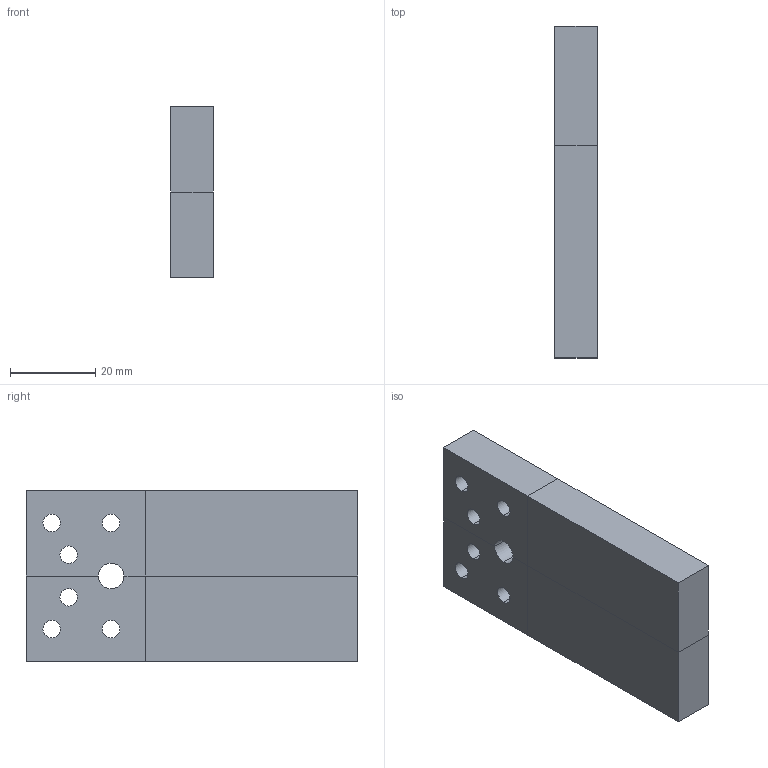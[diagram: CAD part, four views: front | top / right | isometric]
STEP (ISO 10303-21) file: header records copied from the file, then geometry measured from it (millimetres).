
FILE_DESCRIPTION(('Open CASCADE Model'),'2;1');
FILE_NAME('Open CASCADE Shape Model','2006-04-02T17:37:17',('Author'),( 'Open CASCADE'),'Open CASCADE STEP processor 5.2','Open CASCADE 5.2' ,'Unknown');
FILE_SCHEMA(('AUTOMOTIVE_DESIGN_CC2 { 1 2 10303 214 -1 1 5 4 }'));
Length unit declared in the file: millimetre
Products named in the file (1): Product 2
Bounding box: 10 x 78 x 40 mm (x, y, z)
Volume: 30111.9 mm3; surface area: 9350.1 mm2
Topology: 1 solids, 1 shells, 31 faces, 81 edges, 50 vertices
Faces by surface type: cylinder 16, plane 15
Entity records: 2032 total; most frequent: CARTESIAN_POINT 335, DIRECTION 329, LINE 169, VECTOR 169, ORIENTED_EDGE 162, PCURVE 162, DEFINITIONAL_REPRESENTATION 162, EDGE_CURVE 81
